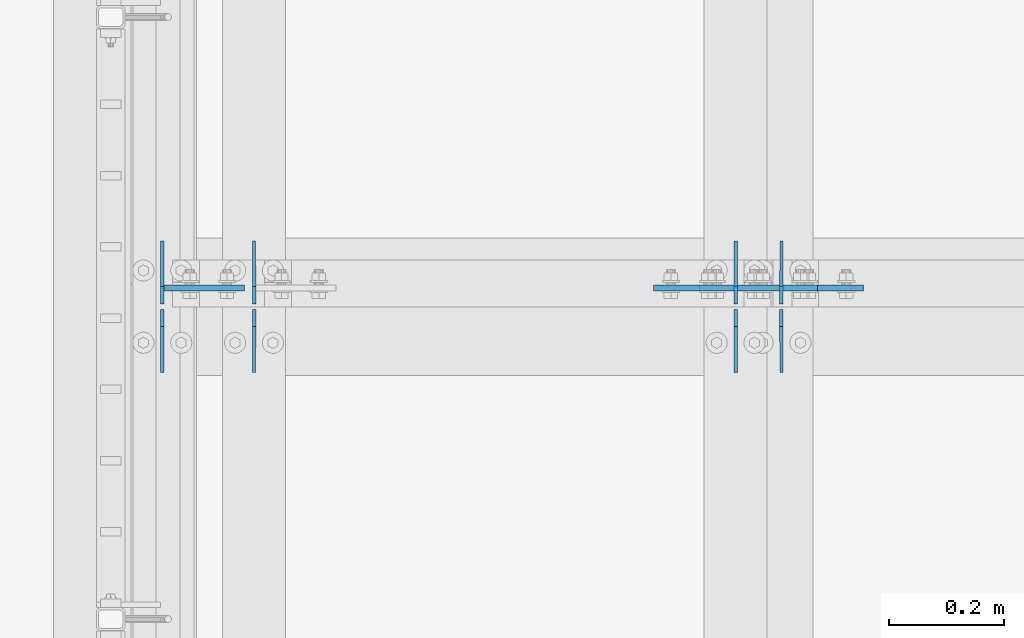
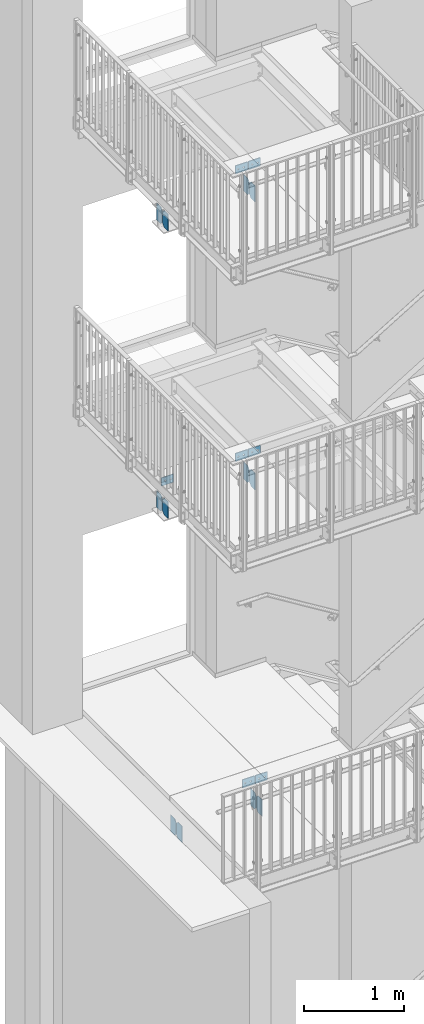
# One storey, part 51 of 410: 19 plates, 38 openings.
"""IFC2X3 building model written with IfcOpenShell, lengths in millimetres."""

from ifc_helpers import new_model, entity, si_unit, converted_unit, frame, frame_2d, origin, origin_with_axes, place, context, project, spatial, polyline, circle, outline, extrude, material, layer, layer_set, element, save


model = new_model("IFC2X3")

# Units and contexts
model_context = context("Model", 3, precision=1e-09, world=origin_with_axes())
ifc_project = project(units=[si_unit("LENGTHUNIT", "METRE", prefix="MILLI"), si_unit("AREAUNIT", "SQUARE_METRE"), si_unit("VOLUMEUNIT", "CUBIC_METRE"), converted_unit("PLANEANGLEUNIT", "DEGREE", entity("IfcPlaneAngleMeasure", 0.01745329), si_unit("PLANEANGLEUNIT", "RADIAN"), dimensions=[0, 0, 0, 0, 0, 0, 0])], contexts=[model_context])

# Site, building, storey
site_placement = place(None, origin_with_axes())
site = spatial("IfcSite", under=ifc_project, at=site_placement, Name="mKR Teilneubau & Sanierung BA1 - Ostfildern", CompositionType="ELEMENT")
building_placement = place(site_placement, origin_with_axes())
building = spatial("IfcBuilding", under=site, at=building_placement, Name="Struktur 1", CompositionType="ELEMENT")
storey_placement = place(building_placement, origin_with_axes())
storey = spatial("IfcBuildingStorey", under=building, at=storey_placement, Name="Default Storey", CompositionType="ELEMENT", Elevation=0.0)

# Plate, openings
ifc_material = material(Name="S235JR")
ifc_layer_1 = layer(ifc_material, 10.0)
ifc_layer_set_1 = layer_set([ifc_layer_1], Name="S235JR")
plate_1_placement = place(None, frame((-2882.9485317, 17017.5, 3860.0), z_axis=(0.0, 1.0, 0.0), x_axis=(-1.0, 0.0, 0.0)))
plate_1 = element("IfcPlate", 1, at=plate_1_placement, inside=storey, material=ifc_layer_set_1, Name="-", ObjectType="-", context=model_context, shape_type="SweptSolid", body=[
    extrude(outline(polyline([(-70.0, -50.0), (70.0, -50.0), (70.0, 50.0), (-70.0, 50.0), (-70.0, -50.0)])), origin_with_axes(), (0.0, 0.0, -1.0), 10.0),
])
opening_1_placement = place(plate_1_placement, frame((30.999, 0.0, 0.5), z_axis=(0.0, 0.0, 1.0), x_axis=(1.0, 0.0, 0.0)))
element("IfcOpeningElement", 2, at=opening_1_placement, cuts=plate_1, ObjectType="Opening", context=model_context, shape_type="SweptSolid", body=[
    extrude(circle(Radius=9.001, at=frame_2d((9.001, 0.0), x_axis=(1.0, 0.0))), origin(), (0.0, 0.0, -1.0), 11.0),
])
opening_2_placement = place(plate_1_placement, frame((-34.001, 0.0, 0.5), z_axis=(0.0, 0.0, 1.0), x_axis=(1.0, 0.0, 0.0)))
element("IfcOpeningElement", 3, at=opening_2_placement, cuts=plate_1, ObjectType="Opening", context=model_context, shape_type="SweptSolid", body=[
    extrude(circle(Radius=9.001, at=frame_2d((9.001, 0.0), x_axis=(1.0, 0.0))), origin(), (0.0, 0.0, -1.0), 11.0),
])

plate_2_placement = place(None, frame((-2737.0485317, 17017.5, 3860.0), z_axis=(0.0, -1.0, 0.0), x_axis=(1.0, 0.0, 0.0)))
plate_2 = element("IfcPlate", 4, at=plate_2_placement, inside=storey, material=ifc_layer_set_1, Name="-", ObjectType="-", context=model_context, shape_type="SweptSolid", body=[
    extrude(outline(polyline([(-70.0, -50.0), (70.0, -50.0), (70.0, 50.0), (-70.0, 50.0), (-70.0, -50.0)])), origin_with_axes(), (0.0, 0.0, 1.0), 10.0),
])
opening_3_placement = place(plate_2_placement, frame((7.5, 0.0, -0.5), z_axis=(0.0, 0.0, 1.0), x_axis=(1.0, 0.0, 0.0)))
element("IfcOpeningElement", 5, at=opening_3_placement, cuts=plate_2, ObjectType="Opening", context=model_context, shape_type="SweptSolid", body=[
    extrude(circle(Radius=9.001, at=frame_2d((32.5, 0.0), x_axis=(1.0, 0.0))), origin(), (0.0, 0.0, 1.0), 11.0),
])
opening_4_placement = place(plate_2_placement, frame((7.5, 0.0, -0.5), z_axis=(0.0, 0.0, 1.0), x_axis=(1.0, 0.0, 0.0)))
element("IfcOpeningElement", 6, at=opening_4_placement, cuts=plate_2, ObjectType="Opening", context=model_context, shape_type="SweptSolid", body=[
    extrude(circle(Radius=9.001, at=frame_2d((-32.5, 0.0), x_axis=(1.0, 0.0))), origin(), (0.0, 0.0, 1.0), 11.0),
])

plate_3_placement = place(None, frame((-2882.9485317, 17017.5, 7360.0), z_axis=(0.0, 1.0, 0.0), x_axis=(-1.0, 0.0, 0.0)))
plate_3 = element("IfcPlate", 7, at=plate_3_placement, inside=storey, material=ifc_layer_set_1, Name="-", ObjectType="-", context=model_context, shape_type="SweptSolid", body=[
    extrude(outline(polyline([(-70.0, -50.0), (70.0, -50.0), (70.0, 50.0), (-70.0, 50.0), (-70.0, -50.0)])), origin_with_axes(), (0.0, 0.0, -1.0), 10.0),
])
opening_5_placement = place(plate_3_placement, frame((30.999, 0.0, 0.5), z_axis=(0.0, 0.0, 1.0), x_axis=(1.0, 0.0, 0.0)))
element("IfcOpeningElement", 8, at=opening_5_placement, cuts=plate_3, ObjectType="Opening", context=model_context, shape_type="SweptSolid", body=[
    extrude(circle(Radius=9.001, at=frame_2d((9.001, 0.0), x_axis=(1.0, 0.0))), origin(), (0.0, 0.0, -1.0), 11.0),
])
opening_6_placement = place(plate_3_placement, frame((-34.001, 0.0, 0.5), z_axis=(0.0, 0.0, 1.0), x_axis=(1.0, 0.0, 0.0)))
element("IfcOpeningElement", 9, at=opening_6_placement, cuts=plate_3, ObjectType="Opening", context=model_context, shape_type="SweptSolid", body=[
    extrude(circle(Radius=9.001, at=frame_2d((9.001, 0.0), x_axis=(1.0, 0.0))), origin(), (0.0, 0.0, -1.0), 11.0),
])

plate_4_placement = place(None, frame((-2737.0485317, 17017.5, 7360.0), z_axis=(0.0, -1.0, 0.0), x_axis=(1.0, 0.0, 0.0)))
plate_4 = element("IfcPlate", 10, at=plate_4_placement, inside=storey, material=ifc_layer_set_1, Name="-", ObjectType="-", context=model_context, shape_type="SweptSolid", body=[
    extrude(outline(polyline([(-70.0, -50.0), (70.0, -50.0), (70.0, 50.0), (-70.0, 50.0), (-70.0, -50.0)])), origin_with_axes(), (0.0, 0.0, 1.0), 10.0),
])
opening_7_placement = place(plate_4_placement, frame((7.5, 0.0, -0.5), z_axis=(0.0, 0.0, 1.0), x_axis=(1.0, 0.0, 0.0)))
element("IfcOpeningElement", 11, at=opening_7_placement, cuts=plate_4, ObjectType="Opening", context=model_context, shape_type="SweptSolid", body=[
    extrude(circle(Radius=9.001, at=frame_2d((32.5, 0.0), x_axis=(1.0, 0.0))), origin(), (0.0, 0.0, 1.0), 11.0),
])
opening_8_placement = place(plate_4_placement, frame((7.5, 0.0, -0.5), z_axis=(0.0, 0.0, 1.0), x_axis=(1.0, 0.0, 0.0)))
element("IfcOpeningElement", 12, at=opening_8_placement, cuts=plate_4, ObjectType="Opening", context=model_context, shape_type="SweptSolid", body=[
    extrude(circle(Radius=9.001, at=frame_2d((-32.5, 0.0), x_axis=(1.0, 0.0))), origin(), (0.0, 0.0, 1.0), 11.0),
])

plate_5_placement = place(None, frame((-2802.9485317, 17017.5, -140.0), z_axis=(0.0, 1.0, 0.0), x_axis=(-1.0, 0.0, 0.0)))
plate_5 = element("IfcPlate", 13, at=plate_5_placement, inside=storey, material=ifc_layer_set_1, Name="-", ObjectType="-", context=model_context, shape_type="SweptSolid", body=[
    extrude(outline(polyline([(-70.0, -50.0), (70.0, -50.0), (70.0, 50.0), (-70.0, 50.0), (-70.0, -50.0)])), origin_with_axes(), (0.0, 0.0, -1.0), 10.0),
])
opening_9_placement = place(plate_5_placement, frame((30.999, 0.0, 0.5), z_axis=(0.0, 0.0, 1.0), x_axis=(1.0, 0.0, 0.0)))
element("IfcOpeningElement", 14, at=opening_9_placement, cuts=plate_5, ObjectType="Opening", context=model_context, shape_type="SweptSolid", body=[
    extrude(circle(Radius=9.001, at=frame_2d((9.001, 0.0), x_axis=(1.0, 0.0))), origin(), (0.0, 0.0, -1.0), 11.0),
])
opening_10_placement = place(plate_5_placement, frame((-34.001, 0.0, 0.5), z_axis=(0.0, 0.0, 1.0), x_axis=(1.0, 0.0, 0.0)))
element("IfcOpeningElement", 15, at=opening_10_placement, cuts=plate_5, ObjectType="Opening", context=model_context, shape_type="SweptSolid", body=[
    extrude(circle(Radius=9.001, at=frame_2d((9.001, 0.0), x_axis=(1.0, 0.0))), origin(), (0.0, 0.0, -1.0), 11.0),
])

plate_6_placement = place(None, frame((-2657.0485317, 17017.5, -140.0), z_axis=(0.0, -1.0, 0.0), x_axis=(1.0, 0.0, 0.0)))
plate_6 = element("IfcPlate", 16, at=plate_6_placement, inside=storey, material=ifc_layer_set_1, Name="-", ObjectType="-", context=model_context, shape_type="SweptSolid", body=[
    extrude(outline(polyline([(-70.0, -50.0), (70.0, -50.0), (70.0, 50.0), (-70.0, 50.0), (-70.0, -50.0)])), origin_with_axes(), (0.0, 0.0, 1.0), 10.0),
])
opening_11_placement = place(plate_6_placement, frame((7.5, 0.0, -0.5), z_axis=(0.0, 0.0, 1.0), x_axis=(1.0, 0.0, 0.0)))
element("IfcOpeningElement", 17, at=opening_11_placement, cuts=plate_6, ObjectType="Opening", context=model_context, shape_type="SweptSolid", body=[
    extrude(circle(Radius=9.001, at=frame_2d((32.5, 0.0), x_axis=(1.0, 0.0))), origin(), (0.0, 0.0, 1.0), 11.0),
])
opening_12_placement = place(plate_6_placement, frame((7.5, 0.0, -0.5), z_axis=(0.0, 0.0, 1.0), x_axis=(1.0, 0.0, 0.0)))
element("IfcOpeningElement", 18, at=opening_12_placement, cuts=plate_6, ObjectType="Opening", context=model_context, shape_type="SweptSolid", body=[
    extrude(circle(Radius=9.001, at=frame_2d((-32.5, 0.0), x_axis=(1.0, 0.0))), origin(), (0.0, 0.0, 1.0), 11.0),
])

ifc_layer_2 = layer(ifc_material, 6.0)
ifc_layer_set_2 = layer_set([ifc_layer_2], Name="S235JR")
plate_7_placement = place(None, frame((-3812.9985317, 17094.75, 3706.5), z_axis=(1.0, 0.0, 0.0), x_axis=(0.0, -1.0, 0.0)))
plate_7 = element("IfcPlate", 19, at=plate_7_placement, inside=storey, material=ifc_layer_set_2, Name="Stiffener#1", ObjectType="Stiffener#1", context=model_context, shape_type="SweptSolid", body=[
    extrude(outline(polyline([(0.0, 0.0), (110.0, 0.0), (110.0, 203.0), (0.0, 203.0), (0.0, 0.0)])), origin_with_axes(), (0.0, 0.0, 1.0), 6.0),
])
opening_13_placement = place(plate_7_placement, frame((0.0, 0.0, -0.01), z_axis=(0.0, 0.0, 1.0), x_axis=(1.0, 0.0, 0.0)))
element("IfcOpeningElement", 20, at=opening_13_placement, cuts=plate_7, ObjectType="Opening", context=model_context, shape_type="SweptSolid", body=[
    extrude(outline(polyline([(110.0, 203.0), (80.0, 203.0), (110.0, 173.0), (110.0, 203.0)])), origin(), (0.0, 0.0, 1.0), 6.02),
])
opening_14_placement = place(plate_7_placement, frame((0.0, 0.0, -0.01), z_axis=(0.0, 0.0, 1.0), x_axis=(1.0, 0.0, 0.0)))
element("IfcOpeningElement", 21, at=opening_14_placement, cuts=plate_7, ObjectType="Opening", context=model_context, shape_type="SweptSolid", body=[
    extrude(outline(polyline([(110.0, 0.0), (110.0, 30.0), (80.0, 0.0), (110.0, 0.0)])), origin(), (0.0, 0.0, 1.0), 6.02),
])

plate_8_placement = place(None, frame((-3812.9985317, 16975.25, 3706.5), z_axis=(1.0, 0.0, 0.0), x_axis=(0.0, -1.0, 0.0)))
plate_8 = element("IfcPlate", 22, at=plate_8_placement, inside=storey, material=ifc_layer_set_2, Name="Stiffener#0", ObjectType="Stiffener#0", context=model_context, shape_type="SweptSolid", body=[
    extrude(outline(polyline([(0.0, 0.0), (110.0, 0.0), (110.0, 203.0), (0.0, 203.0), (0.0, 0.0)])), origin_with_axes(), (0.0, 0.0, 1.0), 6.0),
])
opening_15_placement = place(plate_8_placement, frame((0.0, 0.0, -0.01), z_axis=(0.0, 0.0, 1.0), x_axis=(1.0, 0.0, 0.0)))
element("IfcOpeningElement", 23, at=opening_15_placement, cuts=plate_8, ObjectType="Opening", context=model_context, shape_type="SweptSolid", body=[
    extrude(outline(polyline([(0.0, 203.0), (0.0, 173.0), (30.0, 203.0), (0.0, 203.0)])), origin(), (0.0, 0.0, 1.0), 6.02),
])
opening_16_placement = place(plate_8_placement, frame((0.0, 0.0, -0.01), z_axis=(0.0, 0.0, 1.0), x_axis=(1.0, 0.0, 0.0)))
element("IfcOpeningElement", 24, at=opening_16_placement, cuts=plate_8, ObjectType="Opening", context=model_context, shape_type="SweptSolid", body=[
    extrude(outline(polyline([(0.0, 0.0), (30.0, 0.0), (0.0, 30.0), (0.0, 0.0)])), origin(), (0.0, 0.0, 1.0), 6.02),
])

plate_9_placement = place(None, frame((-2812.9985317, 17094.75, 3706.5), z_axis=(1.0, 0.0, 0.0), x_axis=(0.0, -1.0, 0.0)))
plate_9 = element("IfcPlate", 25, at=plate_9_placement, inside=storey, material=ifc_layer_set_2, Name="Stiffener#1", ObjectType="Stiffener#1", context=model_context, shape_type="SweptSolid", body=[
    extrude(outline(polyline([(0.0, 0.0), (110.0, 0.0), (110.0, 203.0), (0.0, 203.0), (0.0, 0.0)])), origin_with_axes(), (0.0, 0.0, 1.0), 6.0),
])
opening_17_placement = place(plate_9_placement, frame((0.0, 0.0, -0.01), z_axis=(0.0, 0.0, 1.0), x_axis=(1.0, 0.0, 0.0)))
element("IfcOpeningElement", 26, at=opening_17_placement, cuts=plate_9, ObjectType="Opening", context=model_context, shape_type="SweptSolid", body=[
    extrude(outline(polyline([(110.0, 203.0), (80.0, 203.0), (110.0, 173.0), (110.0, 203.0)])), origin(), (0.0, 0.0, 1.0), 6.02),
])
opening_18_placement = place(plate_9_placement, frame((0.0, 0.0, -0.01), z_axis=(0.0, 0.0, 1.0), x_axis=(1.0, 0.0, 0.0)))
element("IfcOpeningElement", 27, at=opening_18_placement, cuts=plate_9, ObjectType="Opening", context=model_context, shape_type="SweptSolid", body=[
    extrude(outline(polyline([(110.0, 0.0), (110.0, 30.0), (80.0, 0.0), (110.0, 0.0)])), origin(), (0.0, 0.0, 1.0), 6.02),
])

plate_10_placement = place(None, frame((-2812.9985317, 16975.25, 3706.5), z_axis=(1.0, 0.0, 0.0), x_axis=(0.0, -1.0, 0.0)))
plate_10 = element("IfcPlate", 28, at=plate_10_placement, inside=storey, material=ifc_layer_set_2, Name="Stiffener#0", ObjectType="Stiffener#0", context=model_context, shape_type="SweptSolid", body=[
    extrude(outline(polyline([(0.0, 0.0), (110.0, 0.0), (110.0, 203.0), (0.0, 203.0), (0.0, 0.0)])), origin_with_axes(), (0.0, 0.0, 1.0), 6.0),
])
opening_19_placement = place(plate_10_placement, frame((0.0, 0.0, -0.01), z_axis=(0.0, 0.0, 1.0), x_axis=(1.0, 0.0, 0.0)))
element("IfcOpeningElement", 29, at=opening_19_placement, cuts=plate_10, ObjectType="Opening", context=model_context, shape_type="SweptSolid", body=[
    extrude(outline(polyline([(0.0, 203.0), (0.0, 173.0), (30.0, 203.0), (0.0, 203.0)])), origin(), (0.0, 0.0, 1.0), 6.02),
])
opening_20_placement = place(plate_10_placement, frame((0.0, 0.0, -0.01), z_axis=(0.0, 0.0, 1.0), x_axis=(1.0, 0.0, 0.0)))
element("IfcOpeningElement", 30, at=opening_20_placement, cuts=plate_10, ObjectType="Opening", context=model_context, shape_type="SweptSolid", body=[
    extrude(outline(polyline([(0.0, 0.0), (30.0, 0.0), (0.0, 30.0), (0.0, 0.0)])), origin(), (0.0, 0.0, 1.0), 6.02),
])

plate_11_placement = place(None, frame((-2812.9985317, 17094.75, 7206.5), z_axis=(1.0, 0.0, 0.0), x_axis=(0.0, -1.0, 0.0)))
plate_11 = element("IfcPlate", 31, at=plate_11_placement, inside=storey, material=ifc_layer_set_2, Name="Stiffener#1", ObjectType="Stiffener#1", context=model_context, shape_type="SweptSolid", body=[
    extrude(outline(polyline([(0.0, 0.0), (110.0, 0.0), (110.0, 203.0), (0.0, 203.0), (0.0, 0.0)])), origin_with_axes(), (0.0, 0.0, 1.0), 6.0),
])
opening_21_placement = place(plate_11_placement, frame((0.0, 0.0, -0.01), z_axis=(0.0, 0.0, 1.0), x_axis=(1.0, 0.0, 0.0)))
element("IfcOpeningElement", 32, at=opening_21_placement, cuts=plate_11, ObjectType="Opening", context=model_context, shape_type="SweptSolid", body=[
    extrude(outline(polyline([(110.0, 203.0), (80.0, 203.0), (110.0, 173.0), (110.0, 203.0)])), origin(), (0.0, 0.0, 1.0), 6.02),
])
opening_22_placement = place(plate_11_placement, frame((0.0, 0.0, -0.01), z_axis=(0.0, 0.0, 1.0), x_axis=(1.0, 0.0, 0.0)))
element("IfcOpeningElement", 33, at=opening_22_placement, cuts=plate_11, ObjectType="Opening", context=model_context, shape_type="SweptSolid", body=[
    extrude(outline(polyline([(110.0, 0.0), (110.0, 30.0), (80.0, 0.0), (110.0, 0.0)])), origin(), (0.0, 0.0, 1.0), 6.02),
])

plate_12_placement = place(None, frame((-2812.9985317, 16975.25, 7206.5), z_axis=(1.0, 0.0, 0.0), x_axis=(0.0, -1.0, 0.0)))
plate_12 = element("IfcPlate", 34, at=plate_12_placement, inside=storey, material=ifc_layer_set_2, Name="Stiffener#0", ObjectType="Stiffener#0", context=model_context, shape_type="SweptSolid", body=[
    extrude(outline(polyline([(0.0, 0.0), (110.0, 0.0), (110.0, 203.0), (0.0, 203.0), (0.0, 0.0)])), origin_with_axes(), (0.0, 0.0, 1.0), 6.0),
])
opening_23_placement = place(plate_12_placement, frame((0.0, 0.0, -0.01), z_axis=(0.0, 0.0, 1.0), x_axis=(1.0, 0.0, 0.0)))
element("IfcOpeningElement", 35, at=opening_23_placement, cuts=plate_12, ObjectType="Opening", context=model_context, shape_type="SweptSolid", body=[
    extrude(outline(polyline([(0.0, 203.0), (0.0, 173.0), (30.0, 203.0), (0.0, 203.0)])), origin(), (0.0, 0.0, 1.0), 6.02),
])
opening_24_placement = place(plate_12_placement, frame((0.0, 0.0, -0.01), z_axis=(0.0, 0.0, 1.0), x_axis=(1.0, 0.0, 0.0)))
element("IfcOpeningElement", 36, at=opening_24_placement, cuts=plate_12, ObjectType="Opening", context=model_context, shape_type="SweptSolid", body=[
    extrude(outline(polyline([(0.0, 0.0), (30.0, 0.0), (0.0, 30.0), (0.0, 0.0)])), origin(), (0.0, 0.0, 1.0), 6.02),
])

plate_13_placement = place(None, frame((-2732.9985317, 17094.75, -293.5), z_axis=(1.0, 0.0, 0.0), x_axis=(0.0, -1.0, 0.0)))
plate_13 = element("IfcPlate", 37, at=plate_13_placement, inside=storey, material=ifc_layer_set_2, Name="Stiffener#1", ObjectType="Stiffener#1", context=model_context, shape_type="SweptSolid", body=[
    extrude(outline(polyline([(0.0, 0.0), (110.0, 0.0), (110.0, 203.0), (0.0, 203.0), (0.0, 0.0)])), origin_with_axes(), (0.0, 0.0, 1.0), 6.0),
])
opening_25_placement = place(plate_13_placement, frame((0.0, 0.0, -0.01), z_axis=(0.0, 0.0, 1.0), x_axis=(1.0, 0.0, 0.0)))
element("IfcOpeningElement", 38, at=opening_25_placement, cuts=plate_13, ObjectType="Opening", context=model_context, shape_type="SweptSolid", body=[
    extrude(outline(polyline([(110.0, 203.0), (80.0, 203.0), (110.0, 173.0), (110.0, 203.0)])), origin(), (0.0, 0.0, 1.0), 6.02),
])
opening_26_placement = place(plate_13_placement, frame((0.0, 0.0, -0.01), z_axis=(0.0, 0.0, 1.0), x_axis=(1.0, 0.0, 0.0)))
element("IfcOpeningElement", 39, at=opening_26_placement, cuts=plate_13, ObjectType="Opening", context=model_context, shape_type="SweptSolid", body=[
    extrude(outline(polyline([(110.0, 0.0), (110.0, 30.0), (80.0, 0.0), (110.0, 0.0)])), origin(), (0.0, 0.0, 1.0), 6.02),
])

plate_14_placement = place(None, frame((-2732.9985317, 16975.25, -293.5), z_axis=(1.0, 0.0, 0.0), x_axis=(0.0, -1.0, 0.0)))
plate_14 = element("IfcPlate", 40, at=plate_14_placement, inside=storey, material=ifc_layer_set_2, Name="Stiffener#0", ObjectType="Stiffener#0", context=model_context, shape_type="SweptSolid", body=[
    extrude(outline(polyline([(0.0, 0.0), (110.0, 0.0), (110.0, 203.0), (0.0, 203.0), (0.0, 0.0)])), origin_with_axes(), (0.0, 0.0, 1.0), 6.0),
])
opening_27_placement = place(plate_14_placement, frame((0.0, 0.0, -0.01), z_axis=(0.0, 0.0, 1.0), x_axis=(1.0, 0.0, 0.0)))
element("IfcOpeningElement", 41, at=opening_27_placement, cuts=plate_14, ObjectType="Opening", context=model_context, shape_type="SweptSolid", body=[
    extrude(outline(polyline([(0.0, 203.0), (0.0, 173.0), (30.0, 203.0), (0.0, 203.0)])), origin(), (0.0, 0.0, 1.0), 6.02),
])
opening_28_placement = place(plate_14_placement, frame((0.0, 0.0, -0.01), z_axis=(0.0, 0.0, 1.0), x_axis=(1.0, 0.0, 0.0)))
element("IfcOpeningElement", 42, at=opening_28_placement, cuts=plate_14, ObjectType="Opening", context=model_context, shape_type="SweptSolid", body=[
    extrude(outline(polyline([(0.0, 0.0), (30.0, 0.0), (0.0, 30.0), (0.0, 0.0)])), origin(), (0.0, 0.0, 1.0), 6.02),
])

plate_15_placement = place(None, frame((-3737.0485317, 17017.5, 3860.0), z_axis=(0.0, -1.0, 0.0), x_axis=(1.0, 0.0, 0.0)))
plate_15 = element("IfcPlate", 43, at=plate_15_placement, inside=storey, material=ifc_layer_set_1, Name="-", ObjectType="-", context=model_context, shape_type="SweptSolid", body=[
    extrude(outline(polyline([(-70.0, -50.0), (70.0, -50.0), (70.0, 50.0), (-70.0, 50.0), (-70.0, -50.0)])), origin_with_axes(), (0.0, 0.0, 1.0), 10.0),
])
opening_29_placement = place(plate_15_placement, frame((7.5, 0.0, -0.5), z_axis=(0.0, 0.0, 1.0), x_axis=(1.0, 0.0, 0.0)))
element("IfcOpeningElement", 44, at=opening_29_placement, cuts=plate_15, ObjectType="Opening", context=model_context, shape_type="SweptSolid", body=[
    extrude(circle(Radius=9.001, at=frame_2d((32.5, 0.0), x_axis=(1.0, 0.0))), origin(), (0.0, 0.0, 1.0), 11.0),
])
opening_30_placement = place(plate_15_placement, frame((7.5, 0.0, -0.5), z_axis=(0.0, 0.0, 1.0), x_axis=(1.0, 0.0, 0.0)))
element("IfcOpeningElement", 45, at=opening_30_placement, cuts=plate_15, ObjectType="Opening", context=model_context, shape_type="SweptSolid", body=[
    extrude(circle(Radius=9.001, at=frame_2d((-32.5, 0.0), x_axis=(1.0, 0.0))), origin(), (0.0, 0.0, 1.0), 11.0),
])

plate_16_placement = place(None, frame((-3812.9985317, 17094.75, 7206.5), z_axis=(1.0, 0.0, 0.0), x_axis=(0.0, -1.0, 0.0)))
plate_16 = element("IfcPlate", 46, at=plate_16_placement, inside=storey, material=ifc_layer_set_2, Name="Stiffener#1", ObjectType="Stiffener#1", context=model_context, shape_type="SweptSolid", body=[
    extrude(outline(polyline([(0.0, 0.0), (110.0, 0.0), (110.0, 203.0), (0.0, 203.0), (0.0, 0.0)])), origin_with_axes(), (0.0, 0.0, 1.0), 6.0),
])
opening_31_placement = place(plate_16_placement, frame((0.0, 0.0, -0.01), z_axis=(0.0, 0.0, 1.0), x_axis=(1.0, 0.0, 0.0)))
element("IfcOpeningElement", 47, at=opening_31_placement, cuts=plate_16, ObjectType="Opening", context=model_context, shape_type="SweptSolid", body=[
    extrude(outline(polyline([(110.0, 203.0), (80.0, 203.0), (110.0, 173.0), (110.0, 203.0)])), origin(), (0.0, 0.0, 1.0), 6.02),
])
opening_32_placement = place(plate_16_placement, frame((0.0, 0.0, -0.01), z_axis=(0.0, 0.0, 1.0), x_axis=(1.0, 0.0, 0.0)))
element("IfcOpeningElement", 48, at=opening_32_placement, cuts=plate_16, ObjectType="Opening", context=model_context, shape_type="SweptSolid", body=[
    extrude(outline(polyline([(110.0, 0.0), (110.0, 30.0), (80.0, 0.0), (110.0, 0.0)])), origin(), (0.0, 0.0, 1.0), 6.02),
])

plate_17_placement = place(None, frame((-3812.9985317, 16975.25, 7206.5), z_axis=(1.0, 0.0, 0.0), x_axis=(0.0, -1.0, 0.0)))
plate_17 = element("IfcPlate", 49, at=plate_17_placement, inside=storey, material=ifc_layer_set_2, Name="Stiffener#0", ObjectType="Stiffener#0", context=model_context, shape_type="SweptSolid", body=[
    extrude(outline(polyline([(0.0, 0.0), (110.0, 0.0), (110.0, 203.0), (0.0, 203.0), (0.0, 0.0)])), origin_with_axes(), (0.0, 0.0, 1.0), 6.0),
])
opening_33_placement = place(plate_17_placement, frame((0.0, 0.0, -0.01), z_axis=(0.0, 0.0, 1.0), x_axis=(1.0, 0.0, 0.0)))
element("IfcOpeningElement", 50, at=opening_33_placement, cuts=plate_17, ObjectType="Opening", context=model_context, shape_type="SweptSolid", body=[
    extrude(outline(polyline([(0.0, 203.0), (0.0, 173.0), (30.0, 203.0), (0.0, 203.0)])), origin(), (0.0, 0.0, 1.0), 6.02),
])
opening_34_placement = place(plate_17_placement, frame((0.0, 0.0, -0.01), z_axis=(0.0, 0.0, 1.0), x_axis=(1.0, 0.0, 0.0)))
element("IfcOpeningElement", 51, at=opening_34_placement, cuts=plate_17, ObjectType="Opening", context=model_context, shape_type="SweptSolid", body=[
    extrude(outline(polyline([(0.0, 0.0), (30.0, 0.0), (0.0, 30.0), (0.0, 0.0)])), origin(), (0.0, 0.0, 1.0), 6.02),
])

plate_18_placement = place(None, frame((-3652.9985317, 17094.75, -293.5), z_axis=(1.0, 0.0, 0.0), x_axis=(0.0, -1.0, 0.0)))
plate_18 = element("IfcPlate", 52, at=plate_18_placement, inside=storey, material=ifc_layer_set_2, Name="Stiffener#1", ObjectType="Stiffener#1", context=model_context, shape_type="SweptSolid", body=[
    extrude(outline(polyline([(0.0, 0.0), (110.0, 0.0), (110.0, 203.0), (0.0, 203.0), (0.0, 0.0)])), origin_with_axes(), (0.0, 0.0, 1.0), 6.0),
])
opening_35_placement = place(plate_18_placement, frame((0.0, 0.0, -0.01), z_axis=(0.0, 0.0, 1.0), x_axis=(1.0, 0.0, 0.0)))
element("IfcOpeningElement", 53, at=opening_35_placement, cuts=plate_18, ObjectType="Opening", context=model_context, shape_type="SweptSolid", body=[
    extrude(outline(polyline([(110.0, 203.0), (80.0, 203.0), (110.0, 173.0), (110.0, 203.0)])), origin(), (0.0, 0.0, 1.0), 6.02),
])
opening_36_placement = place(plate_18_placement, frame((0.0, 0.0, -0.01), z_axis=(0.0, 0.0, 1.0), x_axis=(1.0, 0.0, 0.0)))
element("IfcOpeningElement", 54, at=opening_36_placement, cuts=plate_18, ObjectType="Opening", context=model_context, shape_type="SweptSolid", body=[
    extrude(outline(polyline([(110.0, 0.0), (110.0, 30.0), (80.0, 0.0), (110.0, 0.0)])), origin(), (0.0, 0.0, 1.0), 6.02),
])

plate_19_placement = place(None, frame((-3652.9985317, 16975.25, -293.5), z_axis=(1.0, 0.0, 0.0), x_axis=(0.0, -1.0, 0.0)))
plate_19 = element("IfcPlate", 55, at=plate_19_placement, inside=storey, material=ifc_layer_set_2, Name="Stiffener#0", ObjectType="Stiffener#0", context=model_context, shape_type="SweptSolid", body=[
    extrude(outline(polyline([(0.0, 0.0), (110.0, 0.0), (110.0, 203.0), (0.0, 203.0), (0.0, 0.0)])), origin_with_axes(), (0.0, 0.0, 1.0), 6.0),
])
opening_37_placement = place(plate_19_placement, frame((0.0, 0.0, -0.01), z_axis=(0.0, 0.0, 1.0), x_axis=(1.0, 0.0, 0.0)))
element("IfcOpeningElement", 56, at=opening_37_placement, cuts=plate_19, ObjectType="Opening", context=model_context, shape_type="SweptSolid", body=[
    extrude(outline(polyline([(0.0, 203.0), (0.0, 173.0), (30.0, 203.0), (0.0, 203.0)])), origin(), (0.0, 0.0, 1.0), 6.02),
])
opening_38_placement = place(plate_19_placement, frame((0.0, 0.0, -0.01), z_axis=(0.0, 0.0, 1.0), x_axis=(1.0, 0.0, 0.0)))
element("IfcOpeningElement", 57, at=opening_38_placement, cuts=plate_19, ObjectType="Opening", context=model_context, shape_type="SweptSolid", body=[
    extrude(outline(polyline([(0.0, 0.0), (30.0, 0.0), (0.0, 30.0), (0.0, 0.0)])), origin(), (0.0, 0.0, 1.0), 6.02),
])

save(model, "model.ifc")
